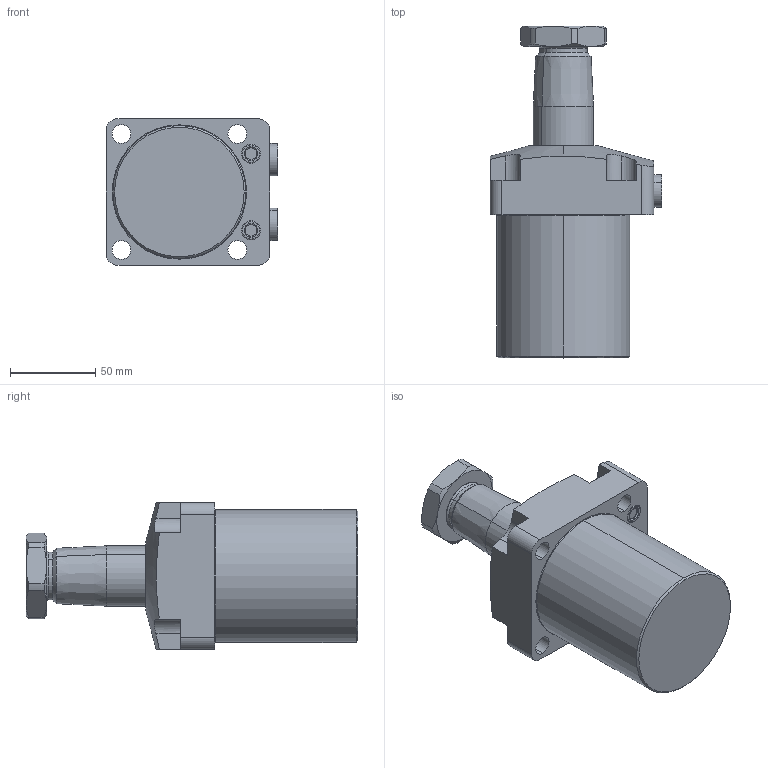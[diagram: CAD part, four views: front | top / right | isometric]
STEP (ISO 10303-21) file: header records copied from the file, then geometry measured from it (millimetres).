
FILE_DESCRIPTION(/* description */ (''),/* implementation_level */ '2;1');
FILE_NAME(/* name */ 'TRC16-RN45.stp',/* time_stamp */ '2025-01-04T09:53:08+08:00',/* author */ (''),/* organization */ (''),/* preprocessor_version */ 'ST-DEVELOPER v16.7',/* originating_system */ 'SIEMENS PLM Software NX 12.0',/* authorisation */ '');
FILE_SCHEMA (('AUTOMOTIVE_DESIGN { 1 0 10303 214 3 1 1 1 }'));
Length unit declared in the file: millimetre
Products named in the file (5): TRC16-RN45-04; TRC16-RN45-03; TRC16-RN45-02; TRC16-RN45-01; TRC16-RN45_stp
Assembly tree (5 placements, depth 2):
  TRC16-RN45_stp
    TRC16-RN45-01
    TRC16-RN45-02
    TRC16-RN45-03
    TRC16-RN45-04  x2
Bounding box: 100.8 x 194.6 x 86 mm (x, y, z)
Volume: 729489.2 mm3; surface area: 73099.8 mm2
Topology: 5 solids, 7 shells, 203 faces, 465 edges, 288 vertices
Faces by surface type: cylinder 73, plane 67, cone 40, torus 22, sphere 1
Entity records: 5416 total; most frequent: CARTESIAN_POINT 1092, DIRECTION 938, ORIENTED_EDGE 836, EDGE_CURVE 418, AXIS2_PLACEMENT_3D 386, VERTEX_POINT 260, EDGE_LOOP 206, CIRCLE 199
